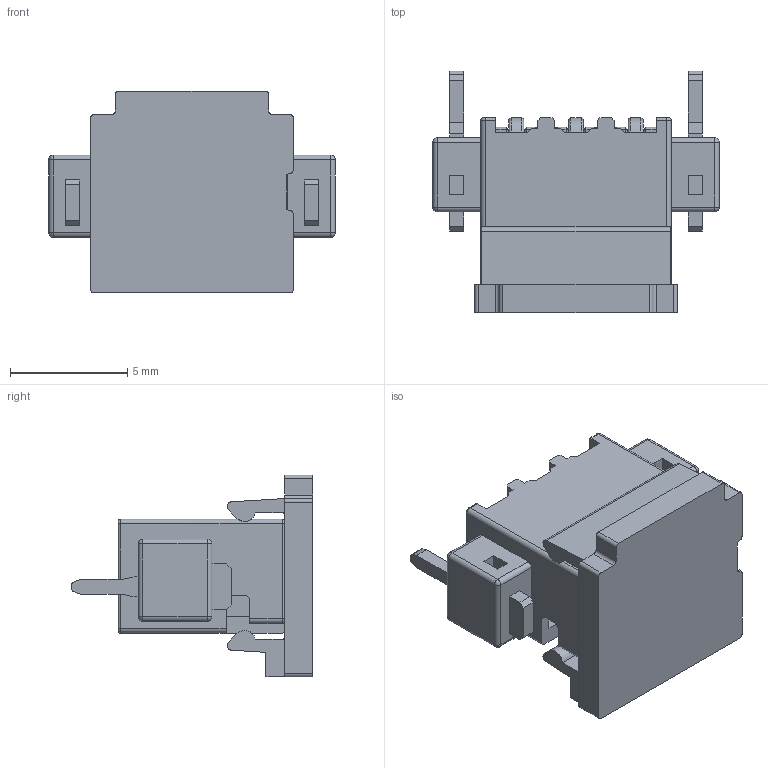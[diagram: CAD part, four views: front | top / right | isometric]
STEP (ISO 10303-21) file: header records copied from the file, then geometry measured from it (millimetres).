
FILE_DESCRIPTION((''),'2;1');
FILE_NAME('OQ254','2022-06-09T',('renkang.li'),(''),'CREO PARAMETRIC BY PTC INC, 2016260','CREO PARAMETRIC BY PTC INC, 2016260','');
FILE_SCHEMA(('CONFIG_CONTROL_DESIGN'));
Length unit declared in the file: millimetre
Products named in the file (1): OQ254
Bounding box: 12.2 x 10.3 x 8.6 mm (x, y, z)
Volume: 321.1 mm3; surface area: 837.3 mm2
Topology: 1 solids, 1 shells, 588 faces, 1625 edges, 996 vertices
Faces by surface type: plane 400, cylinder 130, torus 24, cone 18, bspline 8, sphere 8
Entity records: 18511 total; most frequent: CARTESIAN_POINT 3613, ORIENTED_EDGE 3198, DIRECTION 2983, EDGE_CURVE 1599, VECTOR 1223, LINE 1223, VERTEX_POINT 996, AXIS2_PLACEMENT_3D 880
